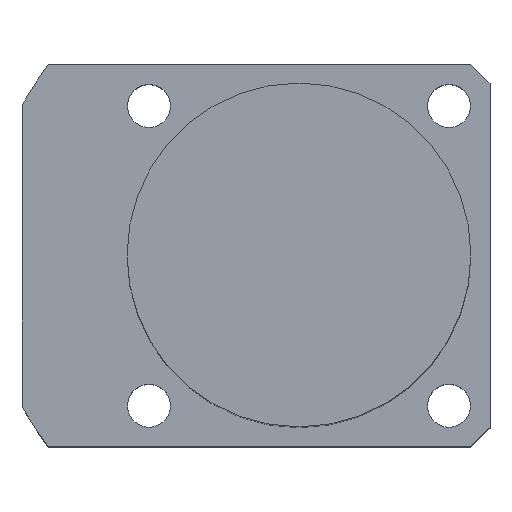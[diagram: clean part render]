
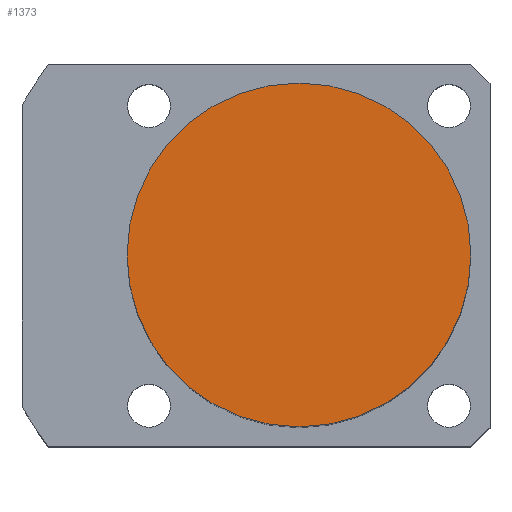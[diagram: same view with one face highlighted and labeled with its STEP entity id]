
A CAD part, top view. The second image highlights one B-rep face of the part: STEP entity #1373.
In plain terms, the highlighted planar face has unit normal (0, 0, 1).
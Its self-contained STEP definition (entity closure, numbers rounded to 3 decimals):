
#1315=CARTESIAN_POINT('',(-0.0,18.0,63.5));
#1316=VERTEX_POINT('',#1315);
#1323=CARTESIAN_POINT('',(18.0,0.0,63.5));
#1324=VERTEX_POINT('',#1323);
#1325=CARTESIAN_POINT('',(0.0,0.0,63.5));
#1326=DIRECTION('',(0.0,0.0,1.0));
#1327=DIRECTION('',(1.0,0.0,0.0));
#1328=AXIS2_PLACEMENT_3D('',#1325,#1326,#1327);
#1329=CIRCLE('',#1328,18.0);
#1330=EDGE_CURVE('no 1741',#1324,#1316,#1329,.T.);
#1332=CARTESIAN_POINT('',(-0.0,-18.0,63.5));
#1333=VERTEX_POINT('',#1332);
#1334=CARTESIAN_POINT('',(0.0,0.0,63.5));
#1335=DIRECTION('',(0.0,0.0,1.0));
#1336=DIRECTION('',(1.0,0.0,0.0));
#1337=AXIS2_PLACEMENT_3D('',#1334,#1335,#1336);
#1338=CIRCLE('',#1337,18.0);
#1339=EDGE_CURVE('no 1747',#1333,#1324,#1338,.T.);
#1357=ORIENTED_EDGE('',*,*,#1330,.T.);
#1358=CARTESIAN_POINT('',(0.0,0.0,63.5));
#1359=DIRECTION('',(0.0,0.0,1.0));
#1360=DIRECTION('',(1.0,0.0,0.0));
#1361=AXIS2_PLACEMENT_3D('',#1358,#1359,#1360);
#1362=CIRCLE('',#1361,18.0);
#1363=EDGE_CURVE('no 1764',#1316,#1333,#1362,.T.);
#1364=ORIENTED_EDGE('',*,*,#1363,.T.);
#1365=ORIENTED_EDGE('',*,*,#1339,.T.);
#1366=EDGE_LOOP('',(#1357,#1364,#1365));
#1367=FACE_OUTER_BOUND('',#1366,.T.);
#1368=CARTESIAN_POINT('',(0.0,0.0,63.5));
#1369=DIRECTION('',(0.0,0.0,1.0));
#1370=DIRECTION('',(1.0,0.0,0.0));
#1371=AXIS2_PLACEMENT_3D('',#1368,#1369,#1370);
#1372=PLANE('',#1371);
#1373=ADVANCED_FACE('no 1757',(#1367),#1372,.T.);
